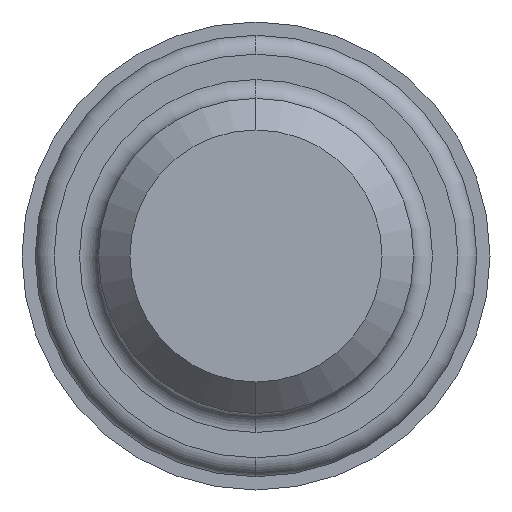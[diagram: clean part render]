
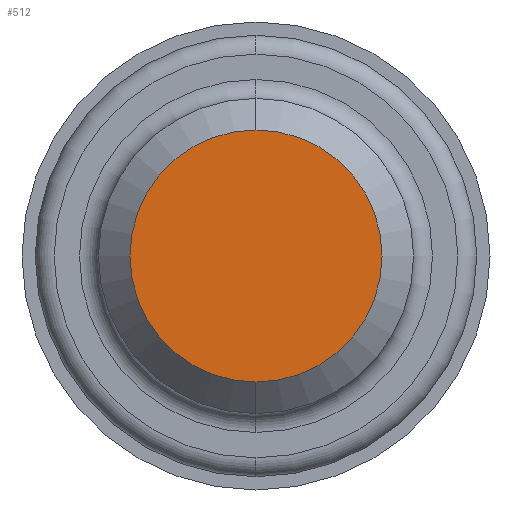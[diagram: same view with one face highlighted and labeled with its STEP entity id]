
A CAD part, left-side view. The second image highlights one B-rep face of the part: STEP entity #512.
In plain terms, the highlighted planar face has unit normal (-1, 0, 0).
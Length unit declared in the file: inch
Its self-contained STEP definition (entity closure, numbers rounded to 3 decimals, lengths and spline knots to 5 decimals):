
#23 = EDGE_LOOP ( 'NONE', ( #451, #274 ) ) ;
#51 = CARTESIAN_POINT ( 'NONE',  ( 0., 0., 0. ) ) ;
#73 = AXIS2_PLACEMENT_3D ( 'NONE', #551, #249, #455 ) ;
#83 = EDGE_CURVE ( 'NONE', #207, #552, #145, .T. ) ;
#96 = CIRCLE ( 'NONE', #73, 0.19985 ) ;
#145 = CIRCLE ( 'NONE', #581, 0.19985 ) ;
#197 = AXIS2_PLACEMENT_3D ( 'NONE', #51, #513, #212 ) ;
#204 = DIRECTION ( 'NONE',  ( -1., 0., 0. ) ) ;
#207 = VERTEX_POINT ( 'NONE', #220 ) ;
#212 = DIRECTION ( 'NONE',  ( 0., 0., -1. ) ) ;
#220 = CARTESIAN_POINT ( 'NONE',  ( 0., 0., -0.19985 ) ) ;
#249 = DIRECTION ( 'NONE',  ( -1., 0., 0. ) ) ;
#256 = CARTESIAN_POINT ( 'NONE',  ( 0., 0., 0.19985 ) ) ;
#274 = ORIENTED_EDGE ( 'NONE', *, *, #359, .T. ) ;
#315 = FACE_OUTER_BOUND ( 'NONE', #23, .T. ) ;
#359 = EDGE_CURVE ( 'NONE', #552, #207, #96, .T. ) ;
#360 = DIRECTION ( 'NONE',  ( 0., 0., 1. ) ) ;
#451 = ORIENTED_EDGE ( 'NONE', *, *, #83, .T. ) ;
#455 = DIRECTION ( 'NONE',  ( 0., 0., 1. ) ) ;
#512 = ADVANCED_FACE ( 'NONE', ( #315 ), #527, .F. ) ;
#513 = DIRECTION ( 'NONE',  ( 1., 0., 0. ) ) ;
#527 = PLANE ( 'NONE',  #197 ) ;
#551 = CARTESIAN_POINT ( 'NONE',  ( 0., 0., 0. ) ) ;
#552 = VERTEX_POINT ( 'NONE', #256 ) ;
#581 = AXIS2_PLACEMENT_3D ( 'NONE', #674, #204, #360 ) ;
#674 = CARTESIAN_POINT ( 'NONE',  ( 0., 0., 0. ) ) ;
